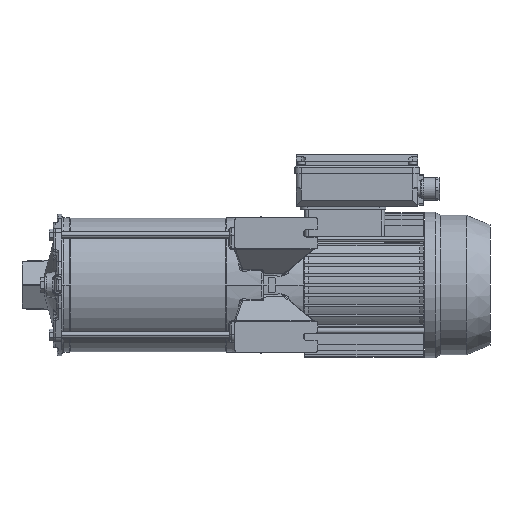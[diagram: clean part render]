
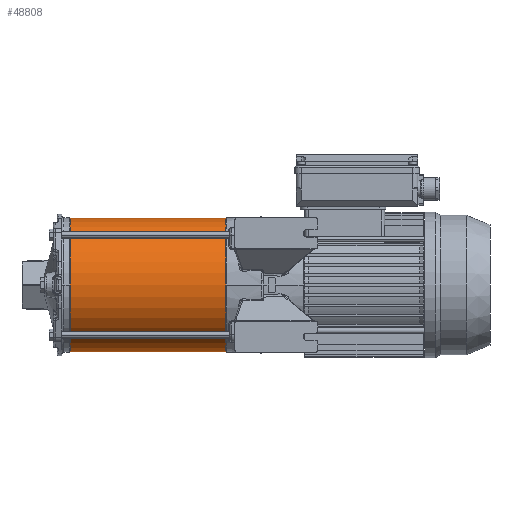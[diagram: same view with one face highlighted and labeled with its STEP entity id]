
A CAD part, front view. The second image highlights one B-rep face of the part: STEP entity #48808.
In plain terms, the highlighted cylindrical face has radius 64.5 mm (diameter 129 mm), a partial arc.
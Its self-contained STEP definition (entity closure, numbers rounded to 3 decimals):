
#48668=CARTESIAN_POINT('',(0.,0.,0.));
#48669=DIRECTION('',(0.,0.,1.));
#48670=DIRECTION('',(1.,0.,0.));
#48671=AXIS2_PLACEMENT_3D('',#48668,#48669,#48670);
#48700=DIRECTION('',(0.,0.,1.));
#48701=VECTOR('',#48700,150.8);
#48702=CARTESIAN_POINT('',(64.5,0.,0.));
#48703=LINE('',#48702,#48701);
#48707=DIRECTION('',(0.,0.,1.));
#48708=VECTOR('',#48707,150.8);
#48709=CARTESIAN_POINT('',(-64.5,0.,0.));
#48710=LINE('',#48709,#48708);
#48714=CARTESIAN_POINT('',(0.,0.,150.8));
#48715=DIRECTION('',(0.,0.,1.));
#48716=DIRECTION('',(1.,0.,0.));
#48717=AXIS2_PLACEMENT_3D('',#48714,#48715,#48716);
#48760=CARTESIAN_POINT('',(64.5,0.,0.));
#48761=CARTESIAN_POINT('',(-64.5,0.,0.));
#48762=VERTEX_POINT('',#48760);
#48763=VERTEX_POINT('',#48761);
#48768=CARTESIAN_POINT('',(64.5,0.,150.8));
#48769=CARTESIAN_POINT('',(-64.5,0.,150.8));
#48770=VERTEX_POINT('',#48768);
#48771=VERTEX_POINT('',#48769);
#48794=CARTESIAN_POINT('',(0.,0.,0.));
#48795=DIRECTION('',(0.,0.,1.));
#48796=DIRECTION('',(1.,0.,0.));
#48797=AXIS2_PLACEMENT_3D('',#48794,#48795,#48796);
#48798=CYLINDRICAL_SURFACE('',#48797,64.5);
#48799=ORIENTED_EDGE('',*,*,#48781,.F.);
#48801=ORIENTED_EDGE('',*,*,#48800,.T.);
#48803=ORIENTED_EDGE('',*,*,#48802,.T.);
#48805=ORIENTED_EDGE('',*,*,#48804,.F.);
#48806=EDGE_LOOP('',(#48799,#48801,#48803,#48805));
#48807=FACE_OUTER_BOUND('',#48806,.F.);
#48672=CIRCLE('',#48671,64.5);
#48718=CIRCLE('',#48717,64.5);
#48781=EDGE_CURVE('',#48762,#48763,#48672,.T.);
#48800=EDGE_CURVE('',#48762,#48770,#48703,.T.);
#48802=EDGE_CURVE('',#48770,#48771,#48718,.T.);
#48804=EDGE_CURVE('',#48763,#48771,#48710,.T.);
#48808=ADVANCED_FACE('',(#48807),#48798,.T.);
